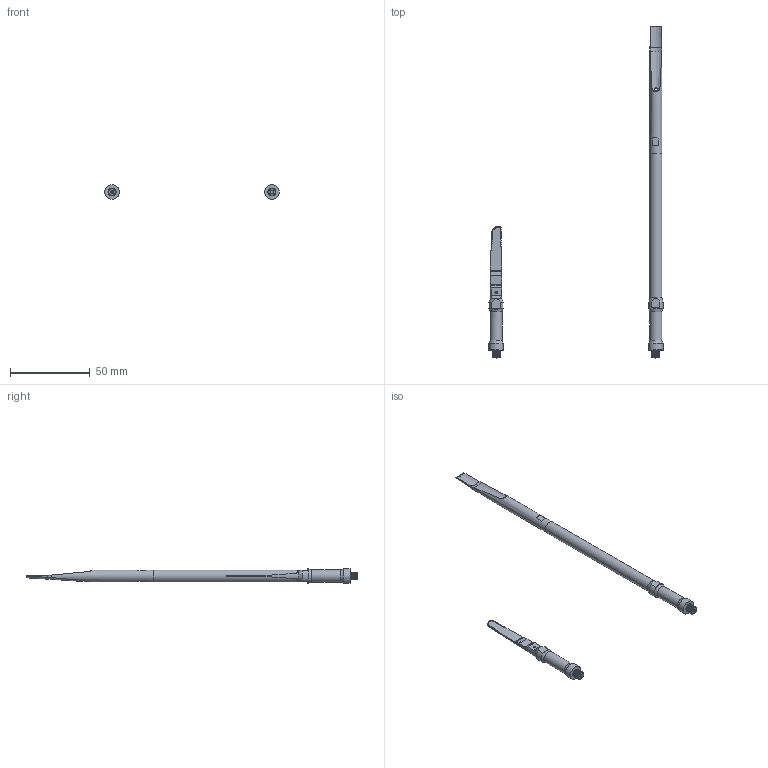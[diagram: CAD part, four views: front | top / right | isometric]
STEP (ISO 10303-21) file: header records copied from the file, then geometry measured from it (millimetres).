
FILE_DESCRIPTION(/* description */ (''),/* implementation_level */ '2;1');
FILE_NAME(/* name */ '超声波手术刀20260715.stp',/* time_stamp */ '2026-07-15T10:26:56+08:00',/* author */ (''),/* organization */ (''),/* preprocessor_version */ 'ST-DEVELOPER v16',/* originating_system */ 'SIEMENS PLM Software NX 10.0',/* authorisation */ '');
FILE_SCHEMA (('AUTOMOTIVE_DESIGN { 1 0 10303 214 3 1 1 1 }'));
Length unit declared in the file: millimetre
Products named in the file (1): dels4AB0B7716xpr
Bounding box: 109 x 207.7 x 9 mm (x, y, z)
Volume: 9731.9 mm3; surface area: 8175.5 mm2
Topology: 3 solids, 3 shells, 165 faces, 454 edges, 300 vertices
Faces by surface type: plane 69, cylinder 63, bspline 22, cone 11
Full cylindrical faces by diameter (mm): 1.4 x2, 2 x3, 4.1 x1, 7.5 x3, 7.6 x1, 9 x3
Entity records: 16760 total; most frequent: CARTESIAN_POINT 12824, ORIENTED_EDGE 842, DIRECTION 723, EDGE_CURVE 421, VERTEX_POINT 286, AXIS2_PLACEMENT_3D 276, EDGE_LOOP 199, LINE 171
